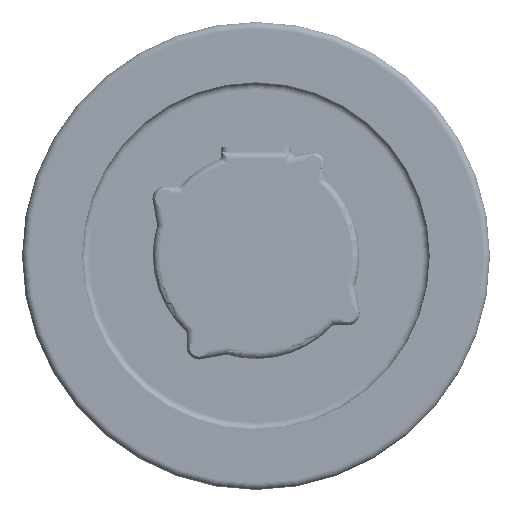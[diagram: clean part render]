
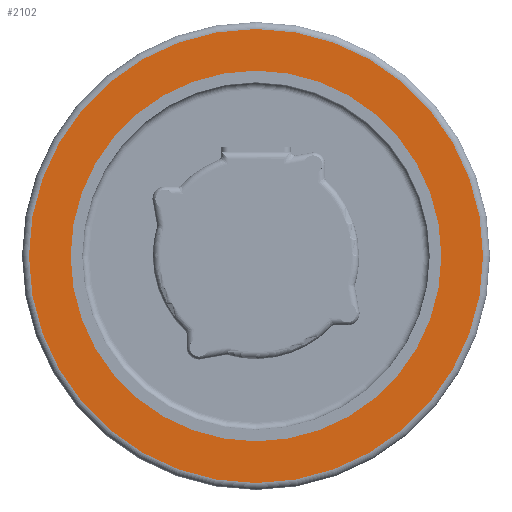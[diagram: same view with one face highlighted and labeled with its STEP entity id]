
A CAD part, left-side view. The second image highlights one B-rep face of the part: STEP entity #2102.
In plain terms, the highlighted planar face has unit normal (-1, 0, 0) as drawn and (0, 0, -1) by its records, which use the part's own axes.
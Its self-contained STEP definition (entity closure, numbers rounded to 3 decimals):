
#625 = DIRECTION ( 'NONE',  ( 0., 0., 1. ) ) ;
#2102 = ADVANCED_FACE ( 'NONE', ( #13271, #37360 ), #20282, .F. ) ;
#2432 = ORIENTED_EDGE ( 'NONE', *, *, #36158, .T. ) ;
#3155 = AXIS2_PLACEMENT_3D ( 'NONE', #23198, #41161, #13499 ) ;
#6777 = DIRECTION ( 'NONE',  ( 0., 0., -1. ) ) ;
#7124 = DIRECTION ( 'NONE',  ( 0., -1., 0. ) ) ;
#7125 = CARTESIAN_POINT ( 'NONE',  ( 0., 98., -25. ) ) ;
#7379 = CARTESIAN_POINT ( 'NONE',  ( 0., 0., -25. ) ) ;
#10377 = EDGE_CURVE ( 'NONE', #38443, #13094, #25427, .T. ) ;
#12001 = CIRCLE ( 'NONE', #30718, 80. ) ;
#12553 = EDGE_CURVE ( 'NONE', #34635, #26018, #12001, .T. ) ;
#12558 = CARTESIAN_POINT ( 'NONE',  ( 0., 80., -25. ) ) ;
#13094 = VERTEX_POINT ( 'NONE', #23371 ) ;
#13271 = FACE_OUTER_BOUND ( 'NONE', #24262, .T. ) ;
#13301 = AXIS2_PLACEMENT_3D ( 'NONE', #7379, #625, #14356 ) ;
#13446 = AXIS2_PLACEMENT_3D ( 'NONE', #20544, #6777, #26825 ) ;
#13499 = DIRECTION ( 'NONE',  ( 0., -1., 0. ) ) ;
#14356 = DIRECTION ( 'NONE',  ( 0., -1., 0. ) ) ;
#14480 = CARTESIAN_POINT ( 'NONE',  ( 0., 0., -25. ) ) ;
#17884 = EDGE_CURVE ( 'NONE', #13094, #38443, #31480, .T. ) ;
#20282 = PLANE ( 'NONE',  #3155 ) ;
#20544 = CARTESIAN_POINT ( 'NONE',  ( 0., 0., -25. ) ) ;
#20673 = CARTESIAN_POINT ( 'NONE',  ( 0., 0., -25. ) ) ;
#23198 = CARTESIAN_POINT ( 'NONE',  ( 0., 101., -25. ) ) ;
#23371 = CARTESIAN_POINT ( 'NONE',  ( 0., -98., -25. ) ) ;
#24253 = DIRECTION ( 'NONE',  ( 0., 0., -1. ) ) ;
#24262 = EDGE_LOOP ( 'NONE', ( #41802, #33861 ) ) ;
#25427 = CIRCLE ( 'NONE', #31979, 98. ) ;
#26018 = VERTEX_POINT ( 'NONE', #12558 ) ;
#26825 = DIRECTION ( 'NONE',  ( 0., -1., 0. ) ) ;
#30718 = AXIS2_PLACEMENT_3D ( 'NONE', #14480, #31620, #34996 ) ;
#31480 = CIRCLE ( 'NONE', #13446, 98. ) ;
#31620 = DIRECTION ( 'NONE',  ( 0., 0., 1. ) ) ;
#31744 = CARTESIAN_POINT ( 'NONE',  ( 0., -80., -25. ) ) ;
#31979 = AXIS2_PLACEMENT_3D ( 'NONE', #20673, #24253, #7124 ) ;
#33541 = ORIENTED_EDGE ( 'NONE', *, *, #12553, .T. ) ;
#33861 = ORIENTED_EDGE ( 'NONE', *, *, #10377, .T. ) ;
#34635 = VERTEX_POINT ( 'NONE', #31744 ) ;
#34996 = DIRECTION ( 'NONE',  ( 0., -1., 0. ) ) ;
#35616 = CIRCLE ( 'NONE', #13301, 80. ) ;
#36158 = EDGE_CURVE ( 'NONE', #26018, #34635, #35616, .T. ) ;
#37360 = FACE_BOUND ( 'NONE', #44434, .T. ) ;
#38443 = VERTEX_POINT ( 'NONE', #7125 ) ;
#41161 = DIRECTION ( 'NONE',  ( 0., 0., 1. ) ) ;
#41802 = ORIENTED_EDGE ( 'NONE', *, *, #17884, .T. ) ;
#44434 = EDGE_LOOP ( 'NONE', ( #33541, #2432 ) ) ;
